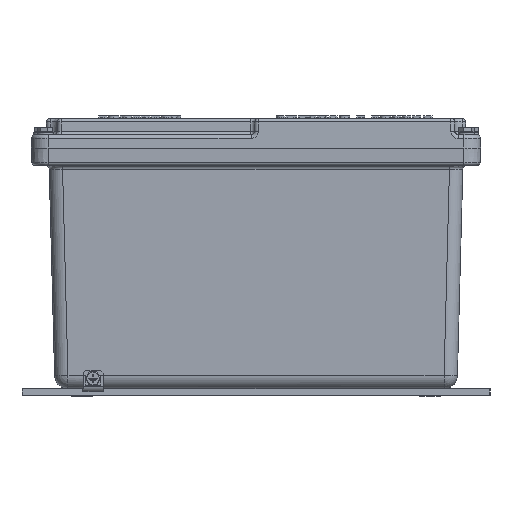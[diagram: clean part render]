
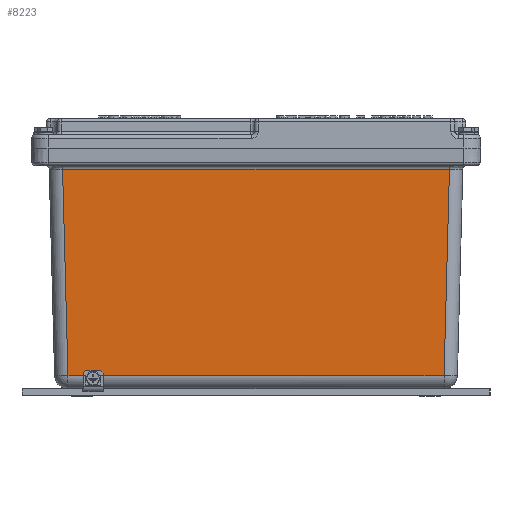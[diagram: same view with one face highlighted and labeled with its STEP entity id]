
A CAD part, left-side view. The second image highlights one B-rep face of the part: STEP entity #8223.
In plain terms, the highlighted planar face has unit normal (-1, 0, -0.026).
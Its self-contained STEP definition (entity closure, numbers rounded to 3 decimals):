
#5696=CARTESIAN_POINT('',(-243.132,121.84,-166.803));
#5697=VERTEX_POINT('',#5696);
#5698=CARTESIAN_POINT('',(-243.068,121.84,-169.261));
#5699=DIRECTION('',(1.,0.0,0.026));
#5700=DIRECTION('',(-0.026,0.0,1.));
#5701=AXIS2_PLACEMENT_3D('',#5698,#5699,#5700);
#5702=CIRCLE('',#5701,2.459);
#5703=EDGE_CURVE('',#5697,#5697,#5702,.T.);
#7582=CARTESIAN_POINT('',(-242.937,127.34,-174.259));
#7583=VERTEX_POINT('',#7582);
#7622=CARTESIAN_POINT('',(-243.12,127.34,-167.262));
#7623=VERTEX_POINT('',#7622);
#7624=CARTESIAN_POINT('',(-242.937,127.34,-174.259));
#7625=DIRECTION('',(-0.026,0.0,1.));
#7626=VECTOR('',#7625,7.);
#7627=LINE('',#7624,#7626);
#7628=EDGE_CURVE('',#7583,#7623,#7627,.T.);
#7668=CARTESIAN_POINT('',(-242.937,116.34,-174.259));
#7669=VERTEX_POINT('',#7668);
#7683=CARTESIAN_POINT('',(-242.937,116.34,-174.259));
#7684=DIRECTION('',(0.0,1.0,0.0));
#7685=VECTOR('',#7684,11.);
#7686=LINE('',#7683,#7685);
#7687=EDGE_CURVE('',#7669,#7583,#7686,.T.);
#7840=CARTESIAN_POINT('',(-243.12,116.34,-167.262));
#7841=VERTEX_POINT('',#7840);
#7855=CARTESIAN_POINT('',(-243.12,116.34,-167.262));
#7856=DIRECTION('',(0.026,0.0,-1.));
#7857=VECTOR('',#7856,7.);
#7858=LINE('',#7855,#7857);
#7859=EDGE_CURVE('',#7841,#7669,#7858,.T.);
#8172=CARTESIAN_POINT('',(-247.238,-10.5,-10.0));
#8173=DIRECTION('',(-1.,0.0,-0.026));
#8174=DIRECTION('',(0.0,1.0,0.0));
#8175=AXIS2_PLACEMENT_3D('',#8172,#8173,#8174);
#8176=PLANE('',#8175);
#8177=CARTESIAN_POINT('',(-243.12,140.624,-167.262));
#8178=VERTEX_POINT('',#8177);
#8179=CARTESIAN_POINT('',(-243.12,127.34,-167.262));
#8180=DIRECTION('',(0.0,1.0,0.0));
#8181=VECTOR('',#8180,13.284);
#8182=LINE('',#8179,#8181);
#8183=EDGE_CURVE('',#7623,#8178,#8182,.T.);
#8184=ORIENTED_EDGE('',*,*,#8183,.F.);
#8185=ORIENTED_EDGE('',*,*,#7628,.F.);
#8186=ORIENTED_EDGE('',*,*,#7687,.F.);
#8187=ORIENTED_EDGE('',*,*,#7859,.F.);
#8188=CARTESIAN_POINT('',(-243.12,-140.624,-167.262));
#8189=VERTEX_POINT('',#8188);
#8190=CARTESIAN_POINT('',(-243.12,-140.624,-167.262));
#8191=DIRECTION('',(0.0,1.0,0.0));
#8192=VECTOR('',#8191,256.963);
#8193=LINE('',#8190,#8192);
#8194=EDGE_CURVE('',#8189,#7841,#8193,.T.);
#8195=ORIENTED_EDGE('',*,*,#8194,.F.);
#8196=CARTESIAN_POINT('',(-247.162,-144.665,-12.921));
#8197=VERTEX_POINT('',#8196);
#8198=CARTESIAN_POINT('',(-247.162,-144.665,-12.921));
#8199=DIRECTION('',(0.026,0.026,-0.999));
#8200=VECTOR('',#8199,154.446);
#8201=LINE('',#8198,#8200);
#8202=EDGE_CURVE('',#8197,#8189,#8201,.T.);
#8203=ORIENTED_EDGE('',*,*,#8202,.F.);
#8204=CARTESIAN_POINT('',(-247.162,144.665,-12.921));
#8205=VERTEX_POINT('',#8204);
#8206=CARTESIAN_POINT('',(-247.162,144.665,-12.921));
#8207=DIRECTION('',(0.0,-1.0,0.0));
#8208=VECTOR('',#8207,289.33);
#8209=LINE('',#8206,#8208);
#8210=EDGE_CURVE('',#8205,#8197,#8209,.T.);
#8211=ORIENTED_EDGE('',*,*,#8210,.F.);
#8212=CARTESIAN_POINT('',(-243.12,140.624,-167.262));
#8213=DIRECTION('',(-0.026,0.026,0.999));
#8214=VECTOR('',#8213,154.446);
#8215=LINE('',#8212,#8214);
#8216=EDGE_CURVE('',#8178,#8205,#8215,.T.);
#8217=ORIENTED_EDGE('',*,*,#8216,.F.);
#8218=EDGE_LOOP('',(#8184,#8185,#8186,#8187,#8195,#8203,#8211,#8217));
#8219=FACE_OUTER_BOUND('',#8218,.T.);
#8220=ORIENTED_EDGE('',*,*,#5703,.T.);
#8221=EDGE_LOOP('',(#8220));
#8222=FACE_BOUND('',#8221,.T.);
#8223=ADVANCED_FACE('',(#8219,#8222),#8176,.T.);
